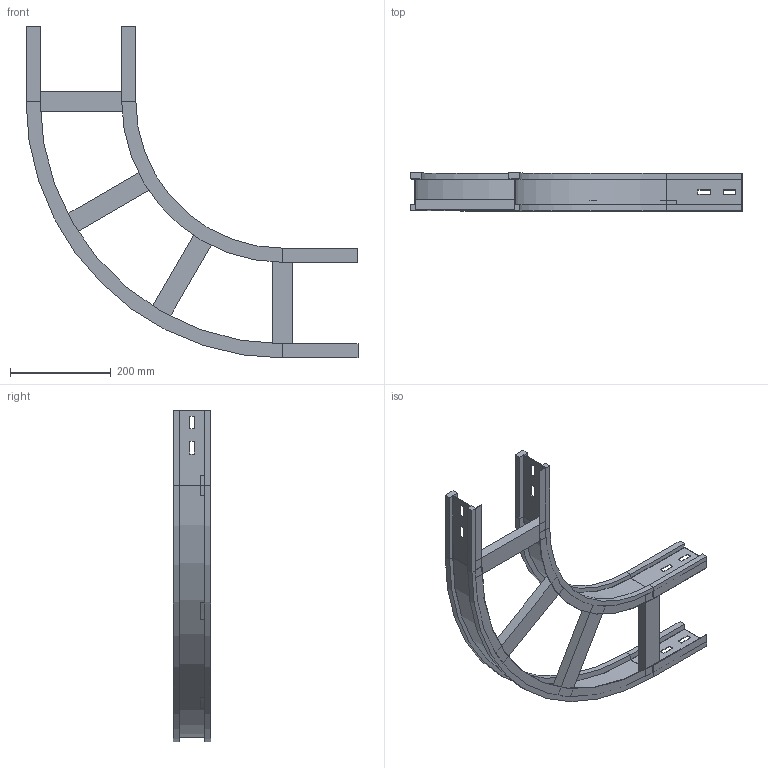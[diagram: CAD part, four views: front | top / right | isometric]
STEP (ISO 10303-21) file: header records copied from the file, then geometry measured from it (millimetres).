
FILE_DESCRIPTION (( 'STEP AP214' ), '1' );
FILE_NAME ('10S3C200.step', '2025-02-21T16:11:09', ( '' ), ( '' ), 'SwSTEP 2.0', 'SolidWorks 2023', '' );
FILE_SCHEMA (( 'AUTOMOTIVE_DESIGN' ));
Length unit declared in the file: millimetre
Products named in the file (4): 10S3C200; TRAVERSINO_200; LONGH.ESTERNO 90°_H75_R300+200; LONGH.INTERNO 90°_H75_R300
Assembly tree (6 placements, depth 2):
  10S3C200
    LONGH.INTERNO 90°_H75_R300
    LONGH.ESTERNO 90°_H75_R300+200
    TRAVERSINO_200  x4
Bounding box: 659 x 75 x 659 mm (x, y, z)
Volume: 1550437.9 mm3; surface area: 559604.4 mm2
Topology: 6 solids, 6 shells, 132 faces, 312 edges, 192 vertices
Faces by surface type: plane 120, cylinder 12
Entity records: 3397 total; most frequent: CARTESIAN_POINT 567, ORIENTED_EDGE 552, DIRECTION 546, EDGE_CURVE 276, LINE 252, VECTOR 252, VERTEX_POINT 168, AXIS2_PLACEMENT_3D 147
